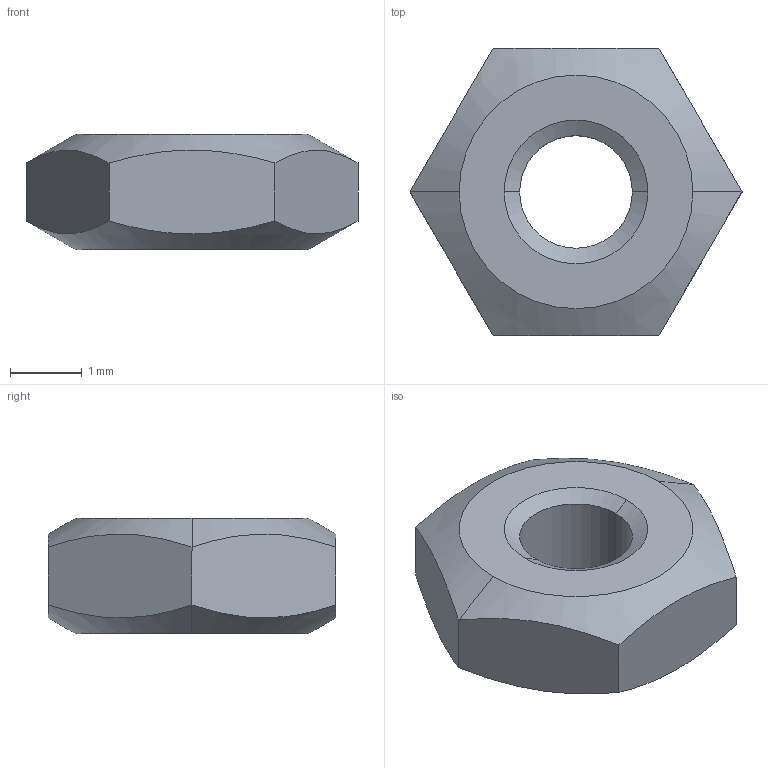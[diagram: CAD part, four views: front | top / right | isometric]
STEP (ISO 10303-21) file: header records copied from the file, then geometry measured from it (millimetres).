
FILE_DESCRIPTION(('Open CASCADE Model'),'2;1');
FILE_NAME('gb-hex-nut-m2.step','2026-11-14T14:31:49',('Author'),( 'Open CASCADE'),'Open CASCADE STEP processor 8.0','Open CASCADE 8.0' ,'Unknown');
FILE_SCHEMA(('AP242_MANAGED_MODEL_BASED_3D_ENGINEERING_MIM_LF {1 0 10303 442 1 1 4 }' ));
Length unit declared in the file: millimetre
Products named in the file (1): GB Hex Nut M2
Bounding box: 4.62 x 4 x 1.6 mm (x, y, z)
Volume: 17.3 mm3; surface area: 47.1 mm2
Topology: 1 solids, 1 shells, 18 faces, 40 edges, 24 vertices
Faces by surface type: cone 8, plane 8, cylinder 2
Entity records: 1444 total; most frequent: CARTESIAN_POINT 671, DIRECTION 128, ORIENTED_EDGE 80, PCURVE 80, DEFINITIONAL_REPRESENTATION 80, LINE 64, VECTOR 64, EDGE_CURVE 40
